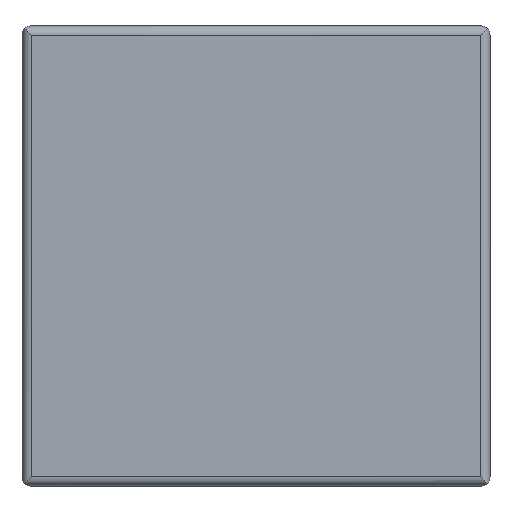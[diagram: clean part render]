
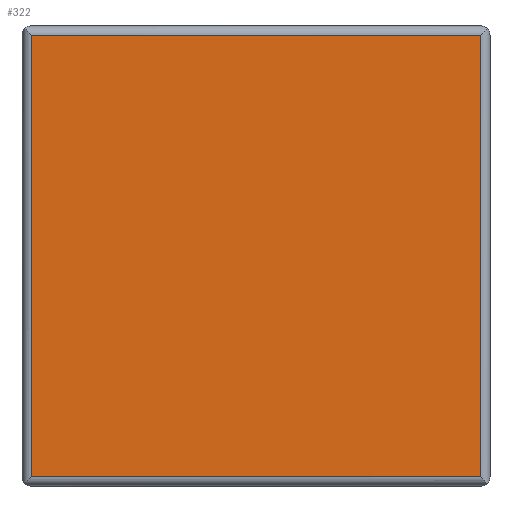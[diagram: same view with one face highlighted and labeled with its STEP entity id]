
A CAD part, front view. The second image highlights one B-rep face of the part: STEP entity #322.
In plain terms, the highlighted planar face has unit normal (0, -1, 0).
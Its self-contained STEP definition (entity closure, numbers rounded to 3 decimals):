
#310 = EDGE_CURVE( '', #660, #658, #799, .T. );
#322 = ADVANCED_FACE( '', ( #811 ), #812, .T. );
#496 = VERTEX_POINT( '', #1004 );
#564 = VERTEX_POINT( '', #1081 );
#600 = EDGE_CURVE( '', #564, #660, #1119, .T. );
#658 = VERTEX_POINT( '', #1180 );
#660 = VERTEX_POINT( '', #1182 );
#684 = EDGE_CURVE( '', #564, #496, #1208, .T. );
#720 = EDGE_CURVE( '', #496, #658, #1250, .T. );
#799 = LINE( '', #1350, #1351 );
#811 = FACE_OUTER_BOUND( '', #1387, .T. );
#812 = PLANE( '', #1388 );
#1004 = CARTESIAN_POINT( '', ( -11.85, -23., -11.65 ) );
#1081 = CARTESIAN_POINT( '', ( 11.85, -23., -11.65 ) );
#1119 = LINE( '', #1880, #1881 );
#1180 = CARTESIAN_POINT( '', ( -11.85, -23., 11.65 ) );
#1182 = CARTESIAN_POINT( '', ( 11.85, -23., 11.65 ) );
#1208 = LINE( '', #2005, #2006 );
#1250 = LINE( '', #2069, #2070 );
#1350 = CARTESIAN_POINT( '', ( 12.35, -23., 11.65 ) );
#1351 = VECTOR( '', #2153, 1. );
#1387 = EDGE_LOOP( '', ( #2162, #2163, #2164, #2165 ) );
#1388 = AXIS2_PLACEMENT_3D( '', #2166, #2167, #2168 );
#1880 = CARTESIAN_POINT( '', ( 11.85, -23., 0. ) );
#1881 = VECTOR( '', #2534, 1. );
#2005 = CARTESIAN_POINT( '', ( 12.35, -23., -11.65 ) );
#2006 = VECTOR( '', #2621, 1. );
#2069 = CARTESIAN_POINT( '', ( -11.85, -23., 0. ) );
#2070 = VECTOR( '', #2689, 1. );
#2153 = DIRECTION( '', ( -1., 0., 0. ) );
#2162 = ORIENTED_EDGE( '', *, *, #720, .F. );
#2163 = ORIENTED_EDGE( '', *, *, #684, .F. );
#2164 = ORIENTED_EDGE( '', *, *, #600, .T. );
#2165 = ORIENTED_EDGE( '', *, *, #310, .T. );
#2166 = CARTESIAN_POINT( '', ( 12.35, -23., 11.65 ) );
#2167 = DIRECTION( '', ( 0., -1., 0. ) );
#2168 = DIRECTION( '', ( 0., 0., 1. ) );
#2534 = DIRECTION( '', ( 0., 0., 1. ) );
#2621 = DIRECTION( '', ( -1., 0., 0. ) );
#2689 = DIRECTION( '', ( 0., 0., 1. ) );
